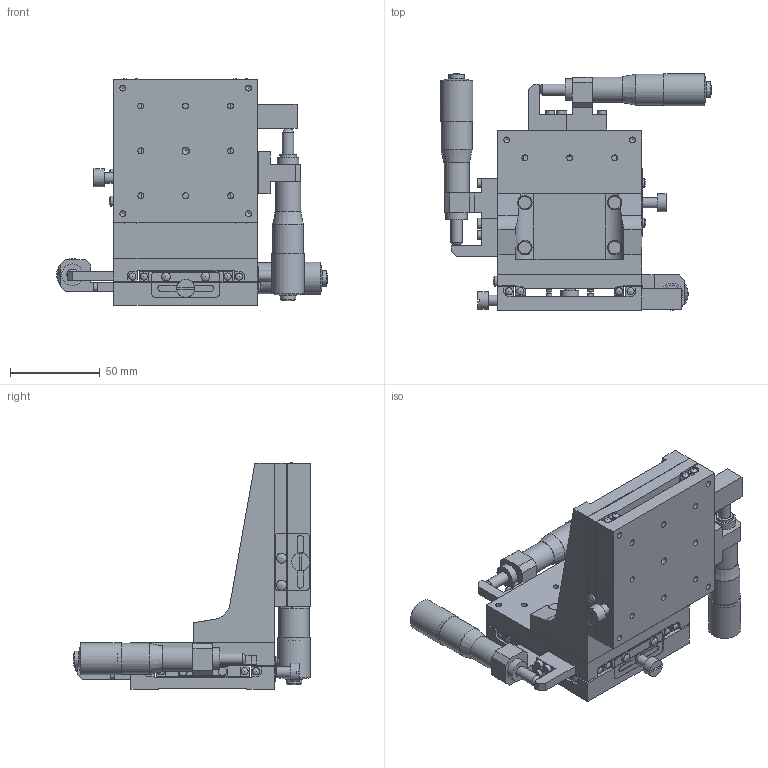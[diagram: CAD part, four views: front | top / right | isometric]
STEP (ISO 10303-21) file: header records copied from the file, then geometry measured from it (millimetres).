
FILE_DESCRIPTION( ( 'STEP AP203' ), '1' );
FILE_NAME( 'C:/3D-Trans/3D_BSS73-80CR+080829.step', '2008-08-29T04:26:10', ( ' ' ), ( ' ' ), 'XStep 1.0', ' ', ' ' );
FILE_SCHEMA( ( 'CONFIG_CONTROL_DESIGN' ) );
Length unit declared in the file: millimetre
Products named in the file (9): 1; 2; 3; 4; 5; 6; 7; 8; 9
Bounding box: 151 x 132 x 126.2 mm (x, y, z)
Volume: 409571.1 mm3; surface area: 155651.5 mm2
Topology: 9 solids, 12 shells, 638 faces, 1653 edges, 1102 vertices
Faces by surface type: plane 350, cylinder 233, sphere 36, cone 19
Full cylindrical faces by diameter (mm): 2 x8, 3 x19, 3.3 x32, 3.5 x2, 4 x28, 4.5 x8, 4.7 x8, 5 x8, 5.6 x2, 6 x4, 6.35 x6, 6.5 x3, 7 x4, 8 x15, 8.5 x3, 8.6 x3, 9 x1, 9.5 x1, 10 x6, 12 x6, 14 x3, 16.8 x3, 17.2 x3, 18 x3
Entity records: 17792 total; most frequent: CARTESIAN_POINT 3133, DIRECTION 3022, ORIENTED_EDGE 2508, EDGE_CURVE 1254, AXIS2_PLACEMENT_3D 1127, EDGE_LOOP 1028, VERTEX_POINT 956, FACE_OUTER_BOUND 817
